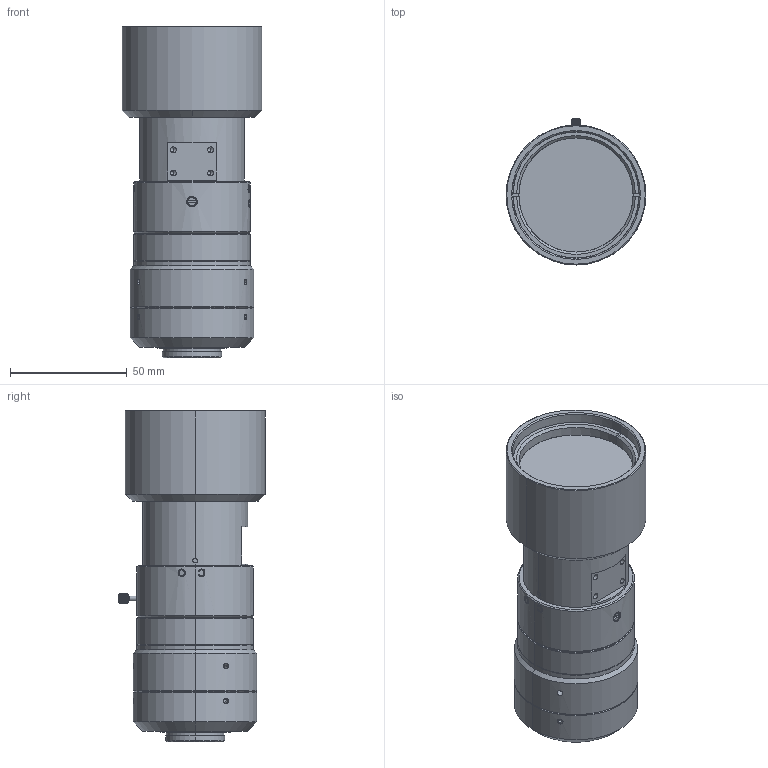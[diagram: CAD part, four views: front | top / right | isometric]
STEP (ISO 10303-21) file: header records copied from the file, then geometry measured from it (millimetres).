
FILE_DESCRIPTION (( 'STEP AP203' ), '1' );
FILE_NAME ('A22564A0000101A.STEP', '2016-11-30T05:47:16', ( '' ), ( '' ), 'SwSTEP 2.0', 'SolidWorks 2014', '' );
FILE_SCHEMA (( 'CONFIG_CONTROL_DESIGN' ));
Length unit declared in the file: millimetre
Products named in the file (1): A22564A0000101A
Bounding box: 60 x 62.75 x 142.24 mm (x, y, z)
Volume: 278372.2 mm3; surface area: 32736.6 mm2
Topology: 1 solids, 1 shells, 432 faces, 1125 edges, 730 vertices
Faces by surface type: cylinder 165, plane 155, cone 76, bspline 36
Entity records: 21380 total; most frequent: CARTESIAN_POINT 11426, ORIENTED_EDGE 2234, DIRECTION 1761, EDGE_CURVE 1117, VERTEX_POINT 730, AXIS2_PLACEMENT_3D 657, EDGE_LOOP 475, VECTOR 447
